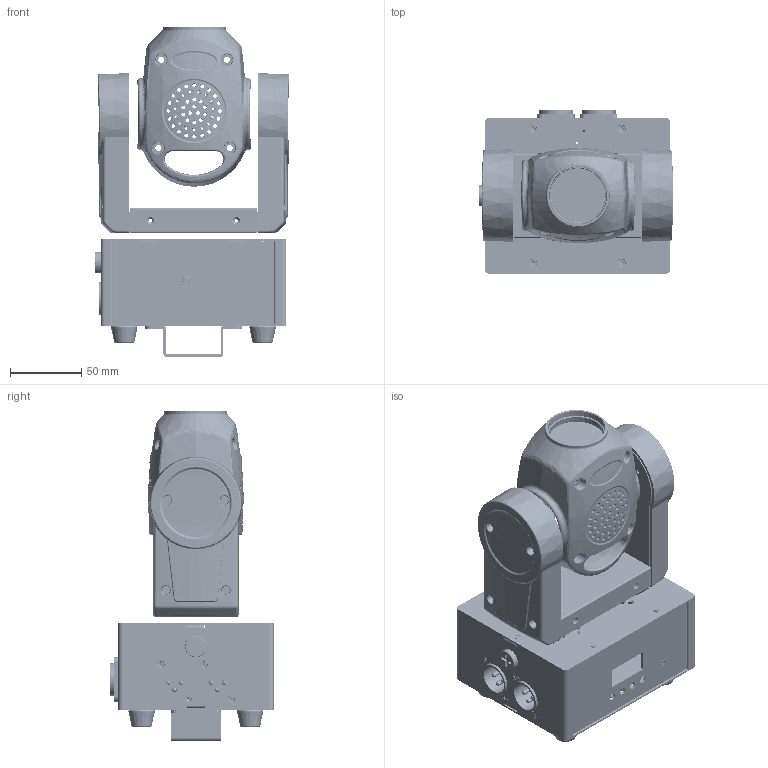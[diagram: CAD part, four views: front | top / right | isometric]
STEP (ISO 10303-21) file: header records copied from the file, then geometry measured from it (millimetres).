
FILE_DESCRIPTION((''),'2;1');
FILE_NAME('FROGGY000_ASM_ASM','2025-04-08T15:12:16',('ALY'),(''),'CREO PARAMETRIC BY PTC INC, 2022164','CREO PARAMETRIC BY PTC INC, 2022164','');
FILE_SCHEMA(('AUTOMOTIVE_DESIGN { 1 0 10303 214 1 1 1 1 }'));
Products named in the file (68): 2000_1; 0005_1; A00_1; B00_1; 00_1-115224; A0002_1; 001_1-130654_1; 001_1-130654_2; 001_1-130654_ASM; 0016_1; 001_1-147517; 15-RS_ASM_88_ASM_1_ASM; 0018_1_1; 0018_1_2; 0018_1_3; 0018_1_ASM; DMX_1_1; 0019_1_1; 0019_1_2; 0019_1_3; 0019_1_ASM; 002_1-171340; 002_1-182389_1; 002_1-182389_2; 002_1-182389_3; 002_1-182389_4; 002_1-182389_5; 002_1-182389_6; 002_1-182389_7; 002_1-182389_8; 002_1-182389_9; 002_1-182389_ASM; 002_1-191582_1; 002_1-191582_2; 002_1-191582_3; 002_1-191582_4; 002_1-191582_5; 002_1-191582_6; 002_1-191582_7; 002_1-191582_8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
Assembly tree (113 placements, depth 5):
  FROGGY000_ASM_ASM
    FROGGY000_ASM_1_ASM
      15-RS_ASM_88_ASM_1_ASM
        2000_1
        0005_1  x2
        A00_1
        B00_1
        00_1-115224
        A0002_1
        001_1-130654_ASM
          001_1-130654_1
          001_1-130654_2
        0016_1
        001_1-147517  x2
      0018_1_ASM
        0018_1_1
        0018_1_2
        0018_1_3
      DMX_1_1  x2
      0019_1_ASM
        0019_1_1
        0019_1_2
        0019_1_3
      002_1-171340  x2
      002_1-182389_ASM
        002_1-182389_1
        002_1-182389_2
        002_1-182389_3
        002_1-182389_4
        002_1-182389_5
        002_1-182389_6
        002_1-182389_7
        002_1-182389_8
        002_1-182389_9
      002_1-191582_ASM
        002_1-191582_1
        002_1-191582_2
        002_1-191582_3
        002_1-191582_4
        002_1-191582_5
        002_1-191582_6
        002_1-191582_7
        002_1-191582_8
        002_1-191582_9
      NAC3MPA-1_4_S__1  x2
      XZY-U600001_1_ASM
      M3X4-0001_1  x30
      00_1-310169_ASM
        00_1-310169_1
        00_1-310169_2
        00_1-310169_3
        00_1-310169_4
        00_1-310169_5
        00_1-310169_6
        00_1-310169_7
        00_1-310169_8
        00_1-310169_9
        00_1-310169_10
      M3X10-0001_1  x4
      M3X4-0002_1  x4
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Bounding box: 135.96 x 114.4 x 231.5 mm (x, y, z)
Volume: 270415.4 mm3; surface area: 362529.9 mm2
Topology: 104 solids, 104 shells, 5484 faces, 14312 edges, 9198 vertices
Faces by surface type: plane 2284, cylinder 1768, cone 668, bspline 650, torus 98, sphere 16
Entity records: 168867 total; most frequent: CARTESIAN_POINT 67052, ORIENTED_EDGE 14844, DIRECTION 14336, EDGE_CURVE 7422, PRESENTATION_STYLE_ASSIGNMENT 6862, STYLED_ITEM 6862, CURVE_STYLE 6612, AXIS2_PLACEMENT_3D 5477
